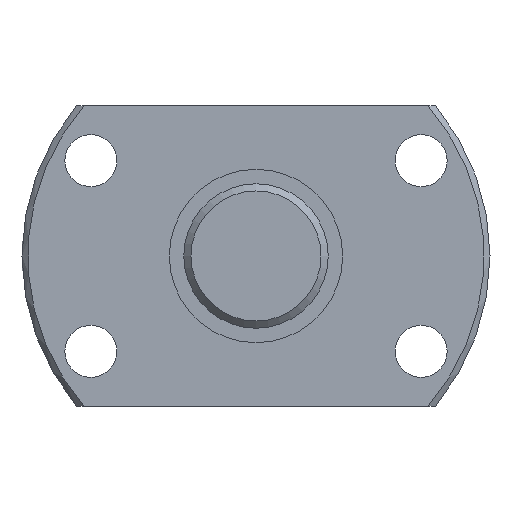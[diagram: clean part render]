
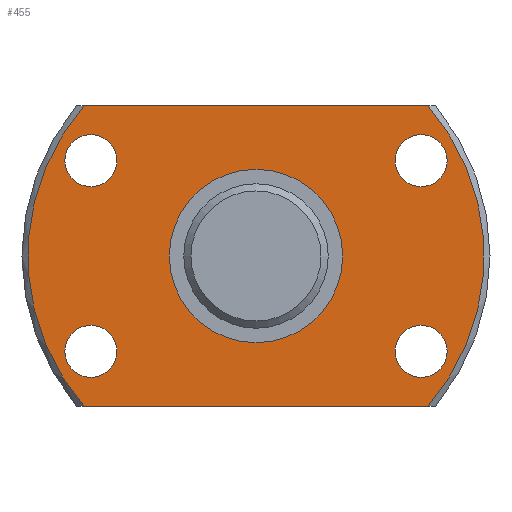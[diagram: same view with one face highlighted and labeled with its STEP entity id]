
A CAD part, left-side view. The second image highlights one B-rep face of the part: STEP entity #455.
In plain terms, the highlighted planar face has unit normal (-1, 0, 0).
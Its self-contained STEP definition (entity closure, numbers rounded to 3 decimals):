
#32=LINE('',#807,#40);
#33=LINE('',#811,#41);
#40=VECTOR('',#626,1000.);
#41=VECTOR('',#629,1000.);
#67=PLANE('',#526);
#103=ORIENTED_EDGE('',*,*,#199,.T.);
#104=ORIENTED_EDGE('',*,*,#200,.F.);
#105=ORIENTED_EDGE('',*,*,#201,.F.);
#106=ORIENTED_EDGE('',*,*,#202,.F.);
#107=ORIENTED_EDGE('',*,*,#189,.F.);
#108=ORIENTED_EDGE('',*,*,#203,.T.);
#109=ORIENTED_EDGE('',*,*,#204,.T.);
#110=ORIENTED_EDGE('',*,*,#205,.T.);
#111=ORIENTED_EDGE('',*,*,#206,.T.);
#189=EDGE_CURVE('',#238,#239,#278,.T.);
#199=EDGE_CURVE('',#248,#248,#283,.T.);
#200=EDGE_CURVE('',#249,#238,#32,.T.);
#201=EDGE_CURVE('',#250,#249,#284,.T.);
#202=EDGE_CURVE('',#239,#250,#33,.T.);
#203=EDGE_CURVE('',#251,#251,#285,.T.);
#204=EDGE_CURVE('',#252,#252,#286,.T.);
#205=EDGE_CURVE('',#253,#253,#287,.T.);
#206=EDGE_CURVE('',#254,#254,#288,.T.);
#238=VERTEX_POINT('',#755);
#239=VERTEX_POINT('',#757);
#248=VERTEX_POINT('',#806);
#249=VERTEX_POINT('',#808);
#250=VERTEX_POINT('',#810);
#251=VERTEX_POINT('',#813);
#252=VERTEX_POINT('',#815);
#253=VERTEX_POINT('',#817);
#254=VERTEX_POINT('',#819);
#278=CIRCLE('',#519,78.975);
#283=CIRCLE('',#527,30.);
#284=CIRCLE('',#528,78.975);
#285=CIRCLE('',#529,9.);
#286=CIRCLE('',#530,9.);
#287=CIRCLE('',#531,9.);
#288=CIRCLE('',#532,9.);
#320=EDGE_LOOP('',(#103));
#321=EDGE_LOOP('',(#104,#105,#106,#107));
#322=EDGE_LOOP('',(#108));
#323=EDGE_LOOP('',(#109));
#324=EDGE_LOOP('',(#110));
#325=EDGE_LOOP('',(#111));
#384=FACE_BOUND('',#320,.T.);
#385=FACE_BOUND('',#321,.T.);
#386=FACE_BOUND('',#322,.T.);
#387=FACE_BOUND('',#323,.T.);
#388=FACE_BOUND('',#324,.T.);
#389=FACE_BOUND('',#325,.T.);
#455=ADVANCED_FACE('',(#384,#385,#386,#387,#388,#389),#67,.T.);
#519=AXIS2_PLACEMENT_3D('',#756,#606,#607);
#526=AXIS2_PLACEMENT_3D('',#804,#622,#623);
#527=AXIS2_PLACEMENT_3D('',#805,#624,#625);
#528=AXIS2_PLACEMENT_3D('',#809,#627,#628);
#529=AXIS2_PLACEMENT_3D('',#812,#630,#631);
#530=AXIS2_PLACEMENT_3D('',#814,#632,#633);
#531=AXIS2_PLACEMENT_3D('',#816,#634,#635);
#532=AXIS2_PLACEMENT_3D('',#818,#636,#637);
#606=DIRECTION('',(1.,0.,0.));
#607=DIRECTION('',(0.,0.,-1.));
#622=DIRECTION('',(-1.,0.,0.));
#623=DIRECTION('',(0.,0.,1.));
#624=DIRECTION('',(1.,0.,0.));
#625=DIRECTION('',(0.,0.,-1.));
#626=DIRECTION('',(0.,-1.,0.));
#627=DIRECTION('',(1.,0.,0.));
#628=DIRECTION('',(0.,0.,-1.));
#629=DIRECTION('',(0.,1.,0.));
#630=DIRECTION('',(1.,0.,0.));
#631=DIRECTION('',(0.,0.,-1.));
#632=DIRECTION('',(1.,0.,0.));
#633=DIRECTION('',(0.,0.,-1.));
#634=DIRECTION('',(1.,0.,0.));
#635=DIRECTION('',(0.,0.,-1.));
#636=DIRECTION('',(1.,0.,0.));
#637=DIRECTION('',(0.,0.,-1.));
#755=CARTESIAN_POINT('',(0.,-59.439,52.));
#756=CARTESIAN_POINT('',(0.,0.,0.));
#757=CARTESIAN_POINT('',(0.,-59.439,-52.));
#804=CARTESIAN_POINT('',(0.,78.975,0.));
#805=CARTESIAN_POINT('',(0.,0.,0.));
#806=CARTESIAN_POINT('',(0.,0.,-30.));
#807=CARTESIAN_POINT('',(0.,81.1,52.));
#808=CARTESIAN_POINT('',(0.,59.439,52.));
#809=CARTESIAN_POINT('',(0.,0.,0.));
#810=CARTESIAN_POINT('',(0.,59.439,-52.));
#811=CARTESIAN_POINT('',(0.,-81.1,-52.));
#812=CARTESIAN_POINT('',(0.,-57.158,33.));
#813=CARTESIAN_POINT('',(0.,-57.158,24.));
#814=CARTESIAN_POINT('',(0.,-57.158,-33.));
#815=CARTESIAN_POINT('',(0.,-57.158,-42.));
#816=CARTESIAN_POINT('',(0.,57.158,-33.));
#817=CARTESIAN_POINT('',(0.,57.158,-42.));
#818=CARTESIAN_POINT('',(0.,57.158,33.));
#819=CARTESIAN_POINT('',(0.,57.158,24.));
